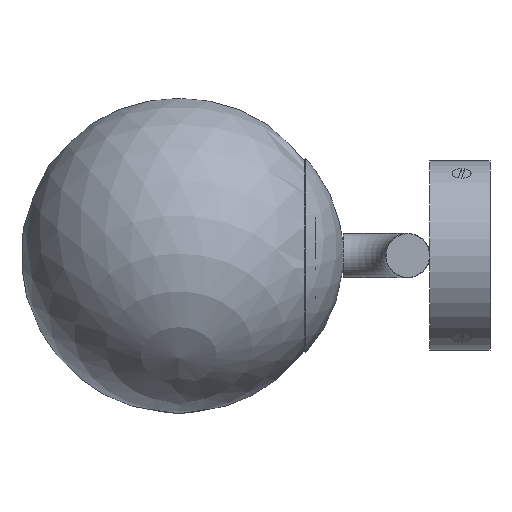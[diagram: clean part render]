
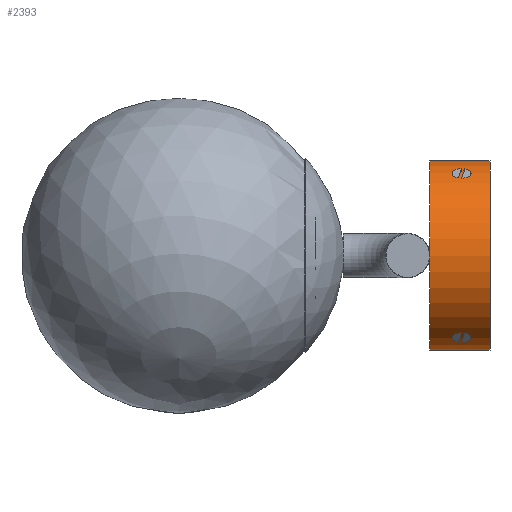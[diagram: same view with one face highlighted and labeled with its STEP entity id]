
A CAD part, front view. The second image highlights one B-rep face of the part: STEP entity #2393.
In plain terms, the highlighted cylindrical face has radius 60 mm (diameter 120 mm), a full revolution.
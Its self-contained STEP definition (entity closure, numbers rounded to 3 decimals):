
#102=LINE('',#4529,#263);
#263=VECTOR('',#2989,60.);
#405=CYLINDRICAL_SURFACE('',#2608,60.);
#481=FACE_OUTER_BOUND('',#637,.T.);
#637=EDGE_LOOP('',(#1571,#1572,#1573,#1574));
#789=CIRCLE('',#2605,60.);
#790=CIRCLE('',#2607,60.);
#951=VERTEX_POINT('',#4523);
#952=VERTEX_POINT('',#4526);
#1181=EDGE_CURVE('',#951,#951,#789,.T.);
#1182=EDGE_CURVE('',#952,#952,#790,.T.);
#1183=EDGE_CURVE('',#951,#952,#102,.T.);
#1571=ORIENTED_EDGE('',*,*,#1181,.F.);
#1572=ORIENTED_EDGE('',*,*,#1183,.T.);
#1573=ORIENTED_EDGE('',*,*,#1182,.F.);
#1574=ORIENTED_EDGE('',*,*,#1183,.F.);
#2393=ADVANCED_FACE('',(#481),#405,.T.);
#2605=AXIS2_PLACEMENT_3D('',#4524,#2981,#2982);
#2607=AXIS2_PLACEMENT_3D('',#4527,#2985,#2986);
#2608=AXIS2_PLACEMENT_3D('',#4528,#2987,#2988);
#2981=DIRECTION('center_axis',(-1.,0.,0.));
#2982=DIRECTION('ref_axis',(0.,0.,-1.));
#2985=DIRECTION('center_axis',(1.,0.,0.));
#2986=DIRECTION('ref_axis',(0.,0.,-1.));
#2987=DIRECTION('center_axis',(-1.,0.,0.));
#2988=DIRECTION('ref_axis',(0.,0.,-1.));
#2989=DIRECTION('',(1.,0.,0.));
#4523=CARTESIAN_POINT('',(0.,0.,60.));
#4524=CARTESIAN_POINT('Origin',(0.,0.,0.));
#4526=CARTESIAN_POINT('',(38.,0.,60.));
#4527=CARTESIAN_POINT('Origin',(38.,0.,0.));
#4528=CARTESIAN_POINT('Origin',(38.,0.,0.));
#4529=CARTESIAN_POINT('',(38.,0.,60.));
